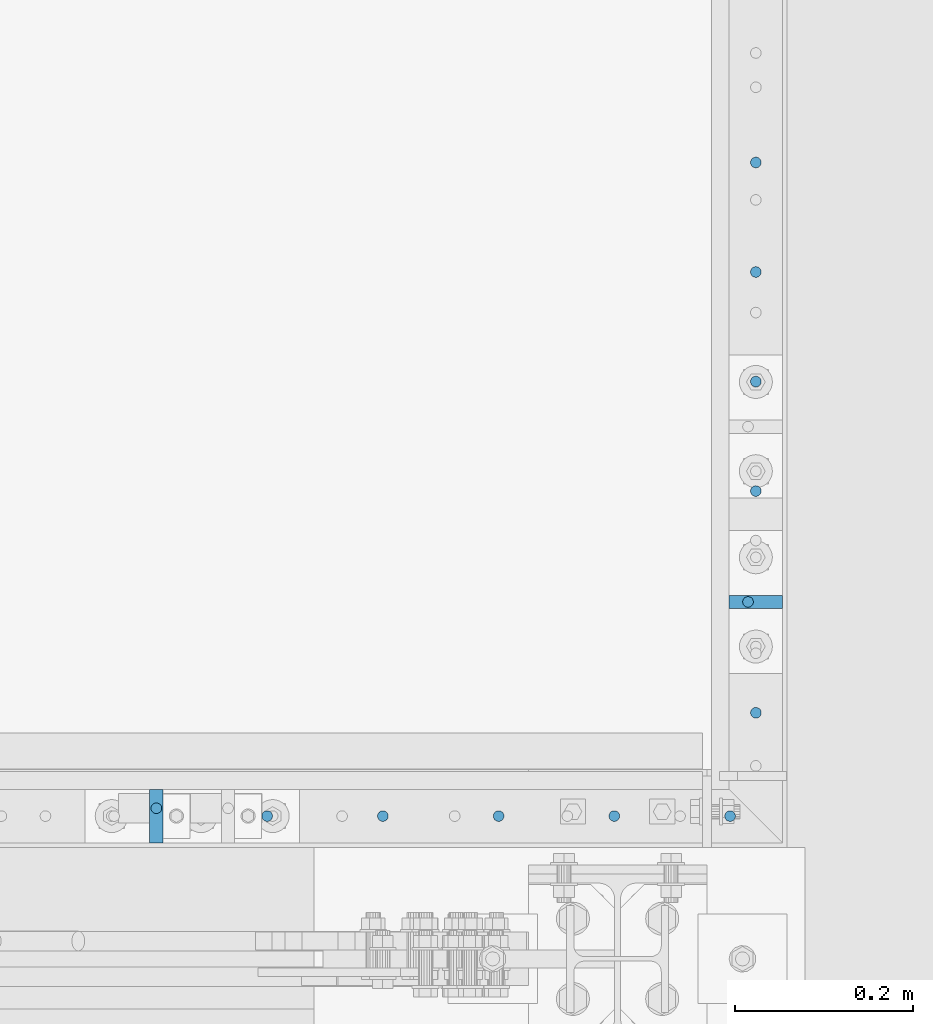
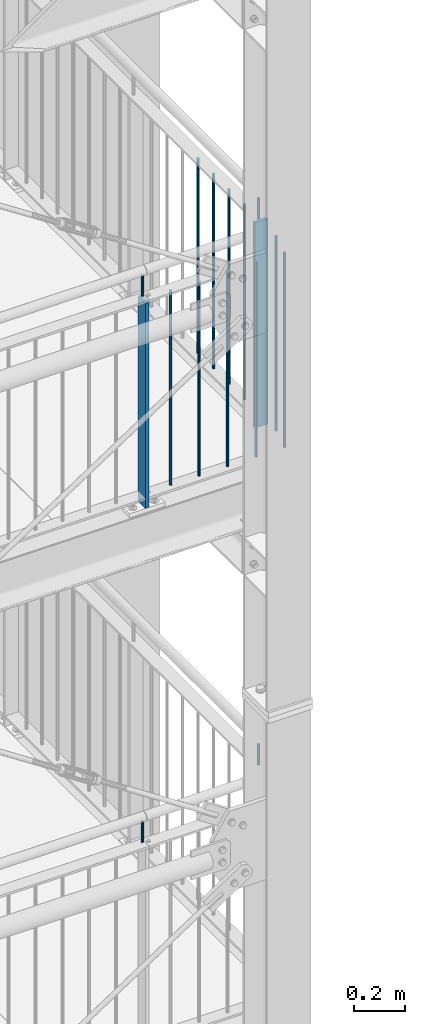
# One storey, part 89 of 817: 16 columns.
"""IFC2X3 building model written with IfcOpenShell, lengths in millimetres."""

from ifc_helpers import new_model, entity, si_unit, converted_unit, frame, origin, origin_with_axes, origin_2d, place, context, project, spatial, rectangle, circle, extrude, clip, halfspace, material, element, save


model = new_model("IFC2X3")

# Units and contexts
model_context = context("Model", 3, precision=1e-09, world=origin_with_axes())
ifc_project = project(units=[si_unit("LENGTHUNIT", "METRE", prefix="MILLI"), si_unit("AREAUNIT", "SQUARE_METRE"), si_unit("VOLUMEUNIT", "CUBIC_METRE"), converted_unit("PLANEANGLEUNIT", "DEGREE", entity("IfcPlaneAngleMeasure", 0.01745329), si_unit("PLANEANGLEUNIT", "RADIAN"), dimensions=[0, 0, 0, 0, 0, 0, 0])], contexts=[model_context])

# Site, building, storey
site_placement = place(None, origin_with_axes())
site = spatial("IfcSite", under=ifc_project, at=site_placement, Name="Cnopf'sche Kinderklinik", CompositionType="ELEMENT")
building_placement = place(site_placement, origin_with_axes())
building = spatial("IfcBuilding", under=site, at=building_placement, Name="Struktur 1", CompositionType="ELEMENT")
storey_placement = place(building_placement, origin_with_axes())
storey = spatial("IfcBuildingStorey", under=building, at=storey_placement, Name="Default Storey", CompositionType="ELEMENT", Elevation=0.0)

# Columns
ifc_material = material(Name="S235JR")
column_1_placement = place(None, frame((9012.913402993, 4766.735971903, 12392.785281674), z_axis=(0.0, 0.0, 1.0), x_axis=(-1.0, 0.0, 0.0)))
element("IfcColumn", 1, at=column_1_placement, inside=storey, material=ifc_material, Name="Bar#7", ObjectType="Bar#7", context=model_context, shape_type="Clipping", body=[
    clip(clip(extrude(circle(Radius=6.0, at=origin_2d()), origin(), (0.0, 0.0, -1.0), 116.970562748), halfspace(frame((9012.913402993, 4766.735971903, -8.486281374), z_axis=(0.0, 0.0, -1.0), x_axis=(1.0, 0.0, 0.0)), True)), halfspace(frame((9012.913402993, 4766.735971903, -108.484281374), z_axis=(0.0, 0.0, 1.0), x_axis=(-1.0, 0.0, 0.0)), True)),
])
column_2_placement = place(None, frame((8349.792260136, 4535.536971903, 12392.785281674), z_axis=(0.0, 0.0, 1.0), x_axis=(0.0, 1.0, 0.0)))
element("IfcColumn", 2, at=column_2_placement, inside=storey, material=ifc_material, Name="Bar#8", ObjectType="Bar#8", context=model_context, shape_type="Clipping", body=[
    clip(clip(extrude(circle(Radius=6.0, at=origin_2d()), origin(), (0.0, 0.0, -1.0), 116.970562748), halfspace(frame((-4535.536971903, 8349.792260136, -8.486281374), z_axis=(0.0, 0.0, -1.0), x_axis=(0.0, 1.0, 0.0)), True)), halfspace(frame((-4535.536971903, 8349.792260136, -108.484281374), z_axis=(0.0, 0.0, 1.0), x_axis=(0.0, -1.0, 0.0)), True)),
])
column_3_placement = place(None, frame((9021.713402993, 4766.735971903, 14936.223292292), z_axis=(0.0, 0.0, 1.0), x_axis=(0.0, -1.0, 0.0)))
element("IfcColumn", 3, at=column_3_placement, inside=storey, material=ifc_material, Name="Railing_Post_Landing#7", ObjectType="Railing_Post_Landing#7", context=model_context, shape_type="Clipping", body=[
    clip(clip(extrude(rectangle(XDim=15.0, YDim=60.0, at=origin_2d()), origin(), (0.0, 0.0, -1.0), 1070.646584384), halfspace(frame((4766.735971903, -9021.713402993, -1019.722292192), z_axis=(0.0, 0.0, 1.0), x_axis=(0.0, 1.0, 0.0)), True)), halfspace(frame((4766.735971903, -9021.713402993, -30.924292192), z_axis=(0.0, 0.0, -1.0), x_axis=(0.0, -1.0, 0.0)), True)),
])
column_4_placement = place(None, frame((8349.792260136, 4526.736971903, 14936.223292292), z_axis=(0.0, 0.0, 1.0), x_axis=(-1.0, 0.0, 0.0)))
element("IfcColumn", 4, at=column_4_placement, inside=storey, material=ifc_material, Name="Railing_Post_Landing#8", ObjectType="Railing_Post_Landing#8", context=model_context, shape_type="Clipping", body=[
    clip(clip(extrude(rectangle(XDim=15.0, YDim=60.0, at=origin_2d()), origin(), (0.0, 0.0, -1.0), 1070.646584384), halfspace(frame((8349.792260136, 4526.736971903, -1019.722292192), z_axis=(0.0, 0.0, 1.0), x_axis=(-1.0, 0.0, 0.0)), True)), halfspace(frame((8349.792260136, 4526.736971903, -30.924292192), z_axis=(0.0, 0.0, -1.0), x_axis=(1.0, 0.0, 0.0)), True)),
])
column_5_placement = place(None, frame((9021.713402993, 5259.236043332, 14918.785281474), z_axis=(0.0, 0.0, 1.0), x_axis=(0.0, -1.0, 0.0)))
element("IfcColumn", 5, at=column_5_placement, inside=storey, material=ifc_material, Name="Railing_Picket_Landing#45", ObjectType="Railing_Picket_Landing#45", context=model_context, shape_type="Clipping", body=[
    clip(clip(extrude(circle(Radius=6.0, at=origin_2d()), origin(), (0.0, 0.0, -1.0), 965.770562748), halfspace(frame((5259.236043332, -9021.713402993, -13.486281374), z_axis=(0.0, 0.0, -1.0), x_axis=(0.0, -1.0, 0.0)), True)), halfspace(frame((5259.236043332, -9021.713402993, -952.284281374), z_axis=(0.0, 0.0, 1.0), x_axis=(0.0, 1.0, 0.0)), True)),
])
column_6_placement = place(None, frame((9021.713402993, 5136.486019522, 14918.785281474), z_axis=(0.0, 0.0, 1.0), x_axis=(0.0, -1.0, 0.0)))
element("IfcColumn", 6, at=column_6_placement, inside=storey, material=ifc_material, Name="Railing_Picket_Landing#46", ObjectType="Railing_Picket_Landing#46", context=model_context, shape_type="Clipping", body=[
    clip(clip(extrude(circle(Radius=6.0, at=origin_2d()), origin(), (0.0, 0.0, -1.0), 965.770562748), halfspace(frame((5136.486019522, -9021.713402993, -13.486281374), z_axis=(0.0, 0.0, -1.0), x_axis=(0.0, -1.0, 0.0)), True)), halfspace(frame((5136.486019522, -9021.713402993, -952.284281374), z_axis=(0.0, 0.0, 1.0), x_axis=(0.0, 1.0, 0.0)), True)),
])
column_7_placement = place(None, frame((9021.713402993, 5013.735995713, 14918.785281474), z_axis=(0.0, 0.0, 1.0), x_axis=(0.0, -1.0, 0.0)))
element("IfcColumn", 7, at=column_7_placement, inside=storey, material=ifc_material, Name="Railing_Picket_Landing#47", ObjectType="Railing_Picket_Landing#47", context=model_context, shape_type="Clipping", body=[
    clip(clip(extrude(circle(Radius=6.0, at=origin_2d()), origin(), (0.0, 0.0, -1.0), 965.770562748), halfspace(frame((5013.735995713, -9021.713402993, -13.486281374), z_axis=(0.0, 0.0, -1.0), x_axis=(0.0, -1.0, 0.0)), True)), halfspace(frame((5013.735995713, -9021.713402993, -952.284281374), z_axis=(0.0, 0.0, 1.0), x_axis=(0.0, 1.0, 0.0)), True)),
])
column_8_placement = place(None, frame((9021.713402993, 4890.985971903, 14918.785281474), z_axis=(0.0, 0.0, 1.0), x_axis=(0.0, -1.0, 0.0)))
element("IfcColumn", 8, at=column_8_placement, inside=storey, material=ifc_material, Name="Railing_Picket_Landing#48", ObjectType="Railing_Picket_Landing#48", context=model_context, shape_type="Clipping", body=[
    clip(clip(extrude(circle(Radius=6.0, at=origin_2d()), origin(), (0.0, 0.0, -1.0), 965.770562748), halfspace(frame((4890.985971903, -9021.713402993, -13.486281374), z_axis=(0.0, 0.0, -1.0), x_axis=(0.0, -1.0, 0.0)), True)), halfspace(frame((4890.985971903, -9021.713402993, -952.284281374), z_axis=(0.0, 0.0, 1.0), x_axis=(0.0, 1.0, 0.0)), True)),
])
column_9_placement = place(None, frame((9021.713402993, 4642.485971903, 14918.785281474), z_axis=(0.0, 0.0, 1.0), x_axis=(0.0, -1.0, 0.0)))
element("IfcColumn", 9, at=column_9_placement, inside=storey, material=ifc_material, Name="Railing_Picket_Landing#49", ObjectType="Railing_Picket_Landing#49", context=model_context, shape_type="Clipping", body=[
    clip(clip(extrude(circle(Radius=6.0, at=origin_2d()), origin(), (0.0, 0.0, -1.0), 965.770562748), halfspace(frame((4642.485971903, -9021.713402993, -13.486281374), z_axis=(0.0, 0.0, -1.0), x_axis=(0.0, -1.0, 0.0)), True)), halfspace(frame((4642.485971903, -9021.713402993, -952.284281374), z_axis=(0.0, 0.0, 1.0), x_axis=(0.0, 1.0, 0.0)), True)),
])
column_10_placement = place(None, frame((8992.778374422, 4526.736971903, 14918.785281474), z_axis=(0.0, 0.0, 1.0), x_axis=(-1.0, 0.0, 0.0)))
element("IfcColumn", 10, at=column_10_placement, inside=storey, material=ifc_material, Name="Railing_Picket_Landing#50", ObjectType="Railing_Picket_Landing#50", context=model_context, shape_type="Clipping", body=[
    clip(clip(extrude(circle(Radius=6.0, at=origin_2d()), origin(), (0.0, 0.0, -1.0), 965.770562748), halfspace(frame((8992.778374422, 4526.736971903, -13.486281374), z_axis=(0.0, 0.0, -1.0), x_axis=(1.0, 0.0, 0.0)), True)), halfspace(frame((8992.778374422, 4526.736971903, -952.284281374), z_axis=(0.0, 0.0, 1.0), x_axis=(-1.0, 0.0, 0.0)), True)),
])
column_11_placement = place(None, frame((8863.09434585, 4526.736971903, 14918.785281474), z_axis=(0.0, 0.0, 1.0), x_axis=(-1.0, 0.0, 0.0)))
element("IfcColumn", 11, at=column_11_placement, inside=storey, material=ifc_material, Name="Railing_Picket_Landing#51", ObjectType="Railing_Picket_Landing#51", context=model_context, shape_type="Clipping", body=[
    clip(clip(extrude(circle(Radius=6.0, at=origin_2d()), origin(), (0.0, 0.0, -1.0), 965.770562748), halfspace(frame((8863.09434585, 4526.736971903, -13.486281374), z_axis=(0.0, 0.0, -1.0), x_axis=(1.0, 0.0, 0.0)), True)), halfspace(frame((8863.09434585, 4526.736971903, -952.284281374), z_axis=(0.0, 0.0, 1.0), x_axis=(-1.0, 0.0, 0.0)), True)),
])
column_12_placement = place(None, frame((8733.410317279, 4526.736971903, 14918.785281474), z_axis=(0.0, 0.0, 1.0), x_axis=(-1.0, 0.0, 0.0)))
element("IfcColumn", 12, at=column_12_placement, inside=storey, material=ifc_material, Name="Railing_Picket_Landing#52", ObjectType="Railing_Picket_Landing#52", context=model_context, shape_type="Clipping", body=[
    clip(clip(extrude(circle(Radius=6.0, at=origin_2d()), origin(), (0.0, 0.0, -1.0), 965.770562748), halfspace(frame((8733.410317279, 4526.736971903, -13.486281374), z_axis=(0.0, 0.0, -1.0), x_axis=(1.0, 0.0, 0.0)), True)), halfspace(frame((8733.410317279, 4526.736971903, -952.284281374), z_axis=(0.0, 0.0, 1.0), x_axis=(-1.0, 0.0, 0.0)), True)),
])
column_13_placement = place(None, frame((8603.726288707, 4526.736971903, 14918.785281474), z_axis=(0.0, 0.0, 1.0), x_axis=(-1.0, 0.0, 0.0)))
element("IfcColumn", 13, at=column_13_placement, inside=storey, material=ifc_material, Name="Railing_Picket_Landing#53", ObjectType="Railing_Picket_Landing#53", context=model_context, shape_type="Clipping", body=[
    clip(clip(extrude(circle(Radius=6.0, at=origin_2d()), origin(), (0.0, 0.0, -1.0), 965.770562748), halfspace(frame((8603.726288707, 4526.736971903, -13.486281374), z_axis=(0.0, 0.0, -1.0), x_axis=(1.0, 0.0, 0.0)), True)), halfspace(frame((8603.726288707, 4526.736971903, -952.284281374), z_axis=(0.0, 0.0, 1.0), x_axis=(-1.0, 0.0, 0.0)), True)),
])
column_14_placement = place(None, frame((8474.042260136, 4526.736971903, 14918.785281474), z_axis=(0.0, 0.0, 1.0), x_axis=(-1.0, 0.0, 0.0)))
element("IfcColumn", 14, at=column_14_placement, inside=storey, material=ifc_material, Name="Railing_Picket_Landing#54", ObjectType="Railing_Picket_Landing#54", context=model_context, shape_type="Clipping", body=[
    clip(clip(extrude(circle(Radius=6.0, at=origin_2d()), origin(), (0.0, 0.0, -1.0), 965.770562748), halfspace(frame((8474.042260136, 4526.736971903, -13.486281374), z_axis=(0.0, 0.0, -1.0), x_axis=(1.0, 0.0, 0.0)), True)), halfspace(frame((8474.042260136, 4526.736971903, -952.284281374), z_axis=(0.0, 0.0, 1.0), x_axis=(-1.0, 0.0, 0.0)), True)),
])
column_15_placement = place(None, frame((9012.913402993, 4766.735971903, 15023.785281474), z_axis=(0.0, 0.0, 1.0), x_axis=(-1.0, 0.0, 0.0)))
element("IfcColumn", 15, at=column_15_placement, inside=storey, material=ifc_material, Name="Bar#7", ObjectType="Bar#7", context=model_context, shape_type="Clipping", body=[
    clip(clip(extrude(circle(Radius=6.0, at=origin_2d()), origin(), (0.0, 0.0, -1.0), 116.970562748), halfspace(frame((9012.913402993, 4766.735971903, -8.486281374), z_axis=(0.0, 0.0, -1.0), x_axis=(1.0, 0.0, 0.0)), True)), halfspace(frame((9012.913402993, 4766.735971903, -108.484281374), z_axis=(0.0, 0.0, 1.0), x_axis=(-1.0, 0.0, 0.0)), True)),
])
column_16_placement = place(None, frame((8349.792260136, 4535.536971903, 15023.785281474), z_axis=(0.0, 0.0, 1.0), x_axis=(0.0, 1.0, 0.0)))
element("IfcColumn", 16, at=column_16_placement, inside=storey, material=ifc_material, Name="Bar#8", ObjectType="Bar#8", context=model_context, shape_type="Clipping", body=[
    clip(clip(extrude(circle(Radius=6.0, at=origin_2d()), origin(), (0.0, 0.0, -1.0), 116.970562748), halfspace(frame((-4535.536971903, 8349.792260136, -8.486281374), z_axis=(0.0, 0.0, -1.0), x_axis=(0.0, 1.0, 0.0)), True)), halfspace(frame((-4535.536971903, 8349.792260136, -108.484281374), z_axis=(0.0, 0.0, 1.0), x_axis=(0.0, -1.0, 0.0)), True)),
])

save(model, "model.ifc")
